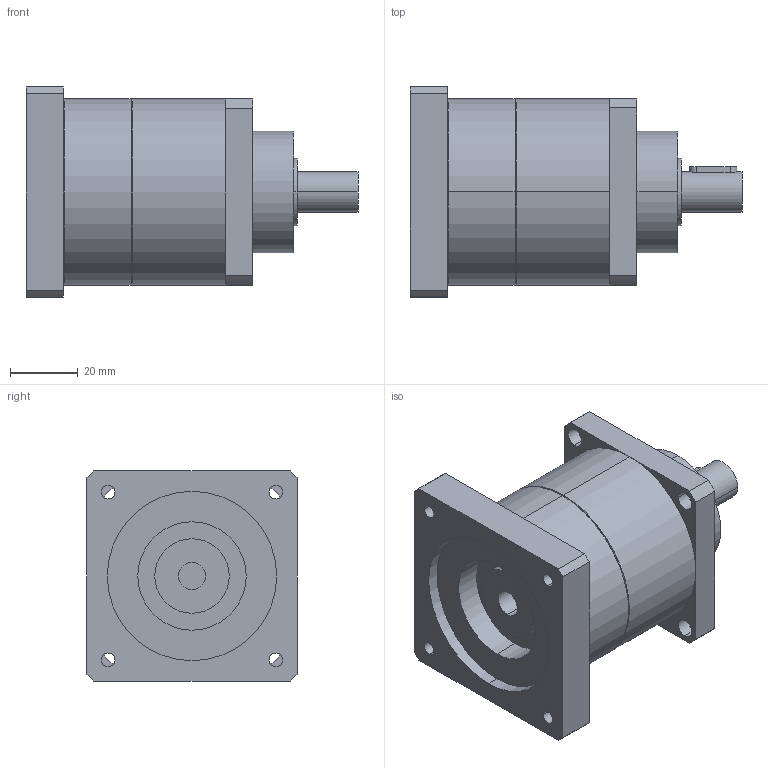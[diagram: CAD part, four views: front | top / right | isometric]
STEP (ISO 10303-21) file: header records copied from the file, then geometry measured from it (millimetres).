
FILE_DESCRIPTION(('CoCreate Modeling STEP Export'),'2;1');
FILE_NAME('GPT55_ig-3-4-5-7-10_12_B5A_8_P31.stp','2014-08-25T14:34:35',(''),(''),'CoCreate Modeling STEP processor for AP214 (Solid Model)','CoCreate Modeling 16.00C 25-Feb-2009 (C) Parametric Technology GmbH','');
FILE_SCHEMA(('AUTOMOTIVE_DESIGN { 1 0 10303 214 1 1 1 1 }'));
Length unit declared in the file: millimetre
Products named in the file (2): GPT55_ig-3-4-5-7-10_12_B5A_8_P31
Assembly tree (1 placements, depth 2):
  GPT55_ig-3-4-5-7-10_12_B5A_8_P31
    GPT55_ig-3-4-5-7-10_12_B5A_8_P31
Bounding box: 98 x 62 x 62 mm (x, y, z)
Volume: 180602.2 mm3; surface area: 26954.2 mm2
Topology: 1 solids, 1 shells, 77 faces, 205 edges, 140 vertices
Faces by surface type: cylinder 46, plane 27, cone 4
Entity records: 2520 total; most frequent: CARTESIAN_POINT 711, ORIENTED_EDGE 410, DIRECTION 318, EDGE_CURVE 205, VERTEX_POINT 140, AXIS2_PLACEMENT_3D 117, EDGE_LOOP 103, VECTOR 84
